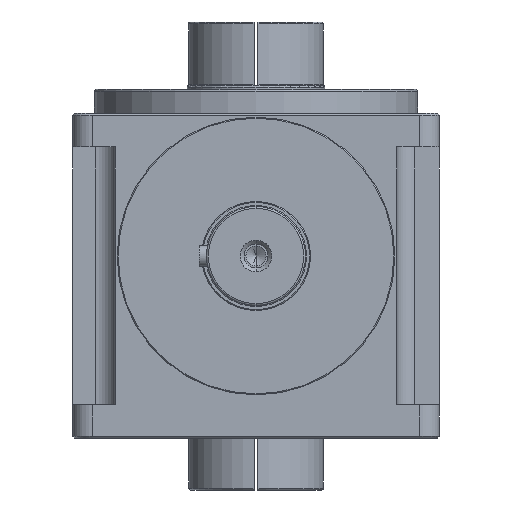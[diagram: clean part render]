
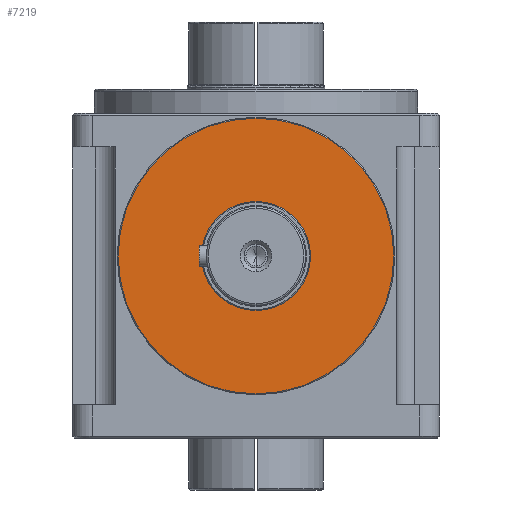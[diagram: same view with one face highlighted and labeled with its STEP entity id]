
A CAD part, front view. The second image highlights one B-rep face of the part: STEP entity #7219.
In plain terms, the highlighted planar face has unit normal (0, -1, 0).
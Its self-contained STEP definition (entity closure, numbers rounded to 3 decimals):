
#157 = CARTESIAN_POINT ( 'NONE',  ( 0., -163., 0. ) ) ;
#237 = DIRECTION ( 'NONE',  ( 0., -1., 0. ) ) ;
#260 = EDGE_LOOP ( 'NONE', ( #10251, #4260 ) ) ;
#367 = AXIS2_PLACEMENT_3D ( 'NONE', #6503, #10861, #1269 ) ;
#933 = DIRECTION ( 'NONE',  ( 0., -1., 0. ) ) ;
#1192 = CARTESIAN_POINT ( 'NONE',  ( 0., -163., -27.5 ) ) ;
#1269 = DIRECTION ( 'NONE',  ( 0., 0., -1. ) ) ;
#1328 = CARTESIAN_POINT ( 'NONE',  ( 0., -163., 27.5 ) ) ;
#2057 = VERTEX_POINT ( 'NONE', #4497 ) ;
#2065 = VERTEX_POINT ( 'NONE', #1192 ) ;
#2376 = CARTESIAN_POINT ( 'NONE',  ( 0., -163., -69.5 ) ) ;
#2751 = PLANE ( 'NONE',  #8454 ) ;
#2995 = EDGE_LOOP ( 'NONE', ( #4122, #6033 ) ) ;
#3332 = CARTESIAN_POINT ( 'NONE',  ( 0., -163., 0. ) ) ;
#3696 = DIRECTION ( 'NONE',  ( 0., 0., -1. ) ) ;
#3813 = CIRCLE ( 'NONE', #367, 27.5 ) ;
#3823 = CIRCLE ( 'NONE', #5280, 69.5 ) ;
#4029 = AXIS2_PLACEMENT_3D ( 'NONE', #3332, #6811, #10153 ) ;
#4122 = ORIENTED_EDGE ( 'NONE', *, *, #4285, .T. ) ;
#4260 = ORIENTED_EDGE ( 'NONE', *, *, #4747, .F. ) ;
#4285 = EDGE_CURVE ( 'NONE', #2057, #6098, #9956, .T. ) ;
#4497 = CARTESIAN_POINT ( 'NONE',  ( 0., -163., 69.5 ) ) ;
#4747 = EDGE_CURVE ( 'NONE', #2065, #6941, #3813, .T. ) ;
#5054 = EDGE_CURVE ( 'NONE', #6098, #2057, #3823, .T. ) ;
#5280 = AXIS2_PLACEMENT_3D ( 'NONE', #5418, #237, #3696 ) ;
#5418 = CARTESIAN_POINT ( 'NONE',  ( 0., -163., 0. ) ) ;
#6033 = ORIENTED_EDGE ( 'NONE', *, *, #5054, .T. ) ;
#6098 = VERTEX_POINT ( 'NONE', #2376 ) ;
#6341 = DIRECTION ( 'NONE',  ( 0., 0., -1. ) ) ;
#6503 = CARTESIAN_POINT ( 'NONE',  ( 0., -163., 0. ) ) ;
#6571 = CIRCLE ( 'NONE', #4029, 27.5 ) ;
#6811 = DIRECTION ( 'NONE',  ( 0., -1., 0. ) ) ;
#6869 = AXIS2_PLACEMENT_3D ( 'NONE', #157, #8829, #10701 ) ;
#6941 = VERTEX_POINT ( 'NONE', #1328 ) ;
#7219 = ADVANCED_FACE ( 'NONE', ( #8077, #7969 ), #2751, .T. ) ;
#7969 = FACE_OUTER_BOUND ( 'NONE', #2995, .T. ) ;
#8077 = FACE_BOUND ( 'NONE', #260, .T. ) ;
#8454 = AXIS2_PLACEMENT_3D ( 'NONE', #10522, #933, #6341 ) ;
#8829 = DIRECTION ( 'NONE',  ( 0., -1., 0. ) ) ;
#9413 = EDGE_CURVE ( 'NONE', #6941, #2065, #6571, .T. ) ;
#9956 = CIRCLE ( 'NONE', #6869, 69.5 ) ;
#10153 = DIRECTION ( 'NONE',  ( 0., 0., -1. ) ) ;
#10251 = ORIENTED_EDGE ( 'NONE', *, *, #9413, .F. ) ;
#10522 = CARTESIAN_POINT ( 'NONE',  ( 0., -163., 0. ) ) ;
#10701 = DIRECTION ( 'NONE',  ( 0., 0., -1. ) ) ;
#10861 = DIRECTION ( 'NONE',  ( 0., -1., 0. ) ) ;
